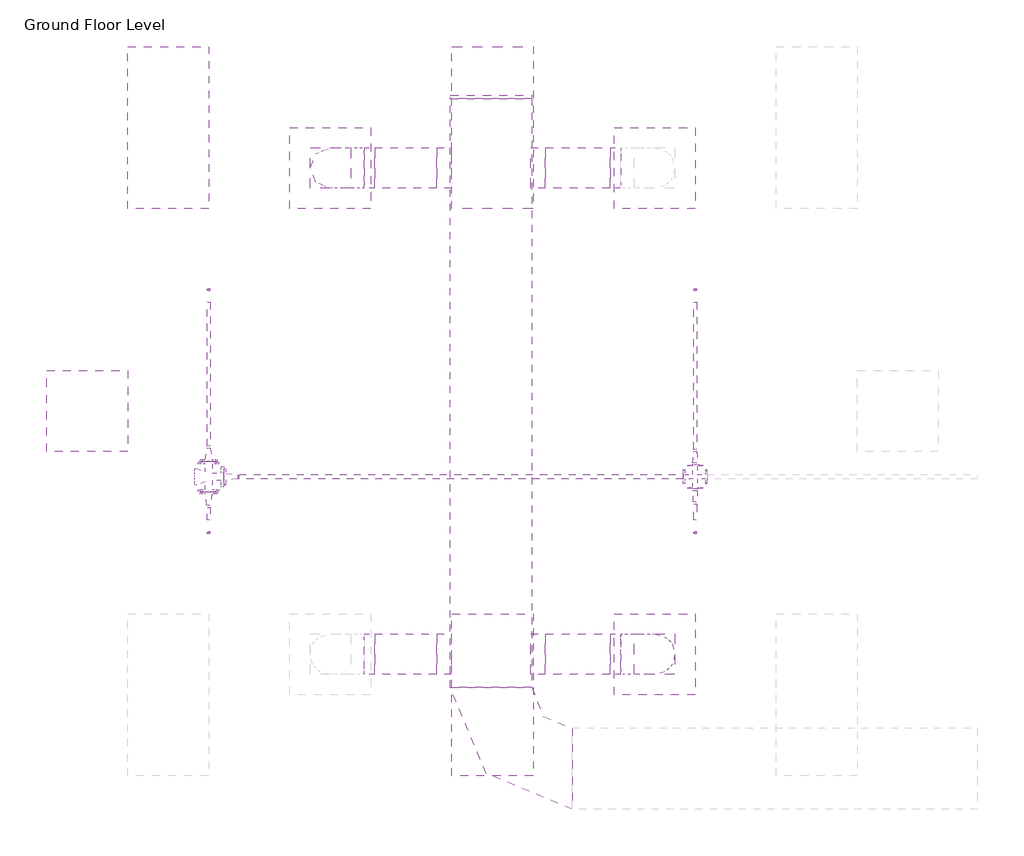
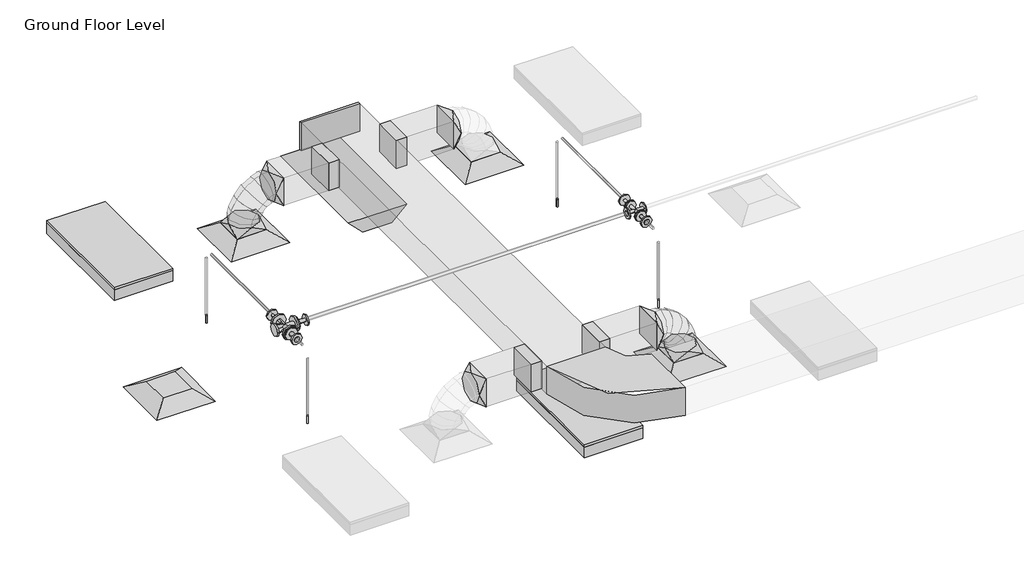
# One storey, part 10 of 66: 12 duct fittings, 9 pipe segments, 7 duct segments, 7 pipe fittings, 4 air terminals, 4 fire suppression terminals, 3 light fixtures.
"""IFC4 building model written with IfcOpenShell, lengths in millimetres."""

from ifc_helpers import new_model, si_unit, point, frame, frame_2d, origin, place, context, project, spatial, polyline, circle_curve, ellipse_curve, trimmed, segment, composite_curve, outline, extrude, transform, mapped, element, save
from ifc_brep_helpers import plane_surface, cylinder_surface, advanced_brep
from components import m_return_diffuser_600_x_600_face_300_x_300_connection_ff221211, m_rectangular_elbow_radius_1_w_c6ed0251, m_rectangular_endcap_standard_0f0ff112, m_rectangular_takeoff_standard_cb0ccb98, m_rectangular_takeoff_standard_2be5eba1, m_rectangular_to_round_transition_angle_45_degree_641efff0, m_sprinkler_dry_pendent_hosted_15_mm_dry_pendent_9bda8e11, m_emergency_recessed_lighting_fixture_600x1200_277_5b10b25d, m_troffer_light_parabolic_rectangular1_0600x1200mm_4_lamp_86473d4a, m_cross_flanged_cs_class_150_standard_16d34c5c, m_reducer_flanged_cs_class_150_standard_ccf252ad, m_reducer_flanged_cs_class_150_standard_8338f9e4, m_reducer_flanged_cs_class_150_standard_dc68ad9d, m_tee_round_base_flanged_cs_class_150_standard_ab36f383

model = new_model("IFC4")

# Units and contexts
model_context = context("Model", 3, world=origin())
ifc_project = project(units=[si_unit("LENGTHUNIT", "METRE", prefix="MILLI")], contexts=[model_context])

# Site, building, storey
site = spatial("IfcSite", under=ifc_project)
building = spatial("IfcBuilding", under=site)
storey = spatial("IfcBuildingStorey", under=building, Name="Ground Floor Level", Elevation=900.0)

# Air terminals
placement = place(None, origin())
m_return_diffuser_600_x_600_face_300_x_300_connection_shape = m_return_diffuser_600_x_600_face_300_x_300_connection_ff221211(model_context)
element("IfcAirTerminal", 1, ObjectType="M_Return Diffuser : 600 x 600 Face 300 x 300 Connection", at=placement, inside=storey, context=model_context, shape_type="MappedRepresentation", body=[
    mapped(m_return_diffuser_600_x_600_face_300_x_300_connection_shape, transform((-20937.2327605, -2464.7846466, 3650.0), x_axis=(1.0, 0.0, 0.0), y_axis=(0.0, 1.0, 0.0), z_axis=(0.0, 0.0, 1.0))),
])
element("IfcAirTerminal", 2, ObjectType="M_Supply Diffuser : 600 x 600 Face 300 x 300 Connection", at=placement, inside=storey, context=model_context, shape_type="MappedRepresentation", body=[
    mapped(m_return_diffuser_600_x_600_face_300_x_300_connection_shape, transform((-19137.2327605, -664.7846466, 3650.0), x_axis=(1.0, 0.0, 0.0), y_axis=(0.0, 1.0, 0.0), z_axis=(0.0, 0.0, 1.0))),
])
element("IfcAirTerminal", 3, ObjectType="M_Supply Diffuser : 600 x 600 Face 300 x 300 Connection", at=placement, inside=storey, context=model_context, shape_type="MappedRepresentation", body=[
    mapped(m_return_diffuser_600_x_600_face_300_x_300_connection_shape, transform((-16737.2327605, -664.7846466, 3650.0), x_axis=(1.0, 0.0, 0.0), y_axis=(0.0, 1.0, 0.0), z_axis=(0.0, 0.0, 1.0))),
])
element("IfcAirTerminal", 4, ObjectType="M_Supply Diffuser : 600 x 600 Face 300 x 300 Connection", at=placement, inside=storey, context=model_context, shape_type="MappedRepresentation", body=[
    mapped(m_return_diffuser_600_x_600_face_300_x_300_connection_shape, transform((-16737.2327605, -4264.7846466, 3650.0), x_axis=(1.0, 0.0, 0.0), y_axis=(0.0, 1.0, 0.0), z_axis=(0.0, 0.0, 1.0))),
])

# Duct fittings
m_rectangular_elbow_radius_1_w_shape = m_rectangular_elbow_radius_1_w_c6ed0251(model_context)
element("IfcDuctFitting", 5, ObjectType="M_Rectangular Elbow - Radius : 1 W", at=placement, inside=storey, context=model_context, shape_type="MappedRepresentation", body=[
    mapped(m_rectangular_elbow_radius_1_w_shape, transform((-17948.0331707, -5111.2846466, 4099.9999574), x_axis=(0.0, -0.999999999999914, -4.1482844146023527e-07), y_axis=(0.9999999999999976, 0.0, 7.102056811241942e-08), z_axis=(-7.102056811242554e-08, -4.1482844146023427e-07, 0.9999999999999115))),
])
m_rectangular_endcap_standard_shape = m_rectangular_endcap_standard_0f0ff112(model_context)
element("IfcDuctFitting", 6, ObjectType="M_Rectangular Endcap : Standard", at=placement, inside=storey, context=model_context, shape_type="MappedRepresentation", body=[
    mapped(m_rectangular_endcap_standard_shape, transform((-17948.0331707, -151.2845861, 4100.0020149), x_axis=(0.0, 0.999999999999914, 4.148284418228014e-07), y_axis=(-1.0, 0.0, 0.0), z_axis=(0.0, -4.148284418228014e-07, 0.999999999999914))),
])
m_rectangular_takeoff_standard_shape = m_rectangular_takeoff_standard_cb0ccb98(model_context)
element("IfcDuctFitting", 7, ObjectType="M_Rectangular Takeoff : Standard", at=placement, inside=storey, context=model_context, shape_type="MappedRepresentation", body=[
    mapped(m_rectangular_takeoff_standard_shape, transform((-18248.0331707, -4264.7846466, 4100.0003085), x_axis=(-1.0, 0.0, 0.0), y_axis=(0.0, 1.0, 0.0), z_axis=(0.0, 0.0, -1.0))),
])
element("IfcDuctFitting", 8, ObjectType="M_Rectangular Takeoff : Standard", at=placement, inside=storey, context=model_context, shape_type="MappedRepresentation", body=[
    mapped(m_rectangular_takeoff_standard_shape, transform((-18248.0331707, -664.7846466, 4100.0018019), x_axis=(-1.0, 0.0, 0.0), y_axis=(0.0, 1.0, 0.0), z_axis=(0.0, 0.0, -1.0))),
])
m_rectangular_takeoff_standard_2_shape = m_rectangular_takeoff_standard_2be5eba1(model_context)
element("IfcDuctFitting", 9, ObjectType="M_Rectangular Takeoff : Standard", at=placement, inside=storey, context=model_context, shape_type="MappedRepresentation", body=[
    mapped(m_rectangular_takeoff_standard_2_shape, transform((-17648.0331707, -4264.7846466, 4100.0003085), x_axis=(1.0, 0.0, 0.0), y_axis=(0.0, -1.0, 0.0), z_axis=(0.0, 0.0, -1.0))),
])
element("IfcDuctFitting", 10, ObjectType="M_Rectangular Takeoff : Standard", at=placement, inside=storey, context=model_context, shape_type="MappedRepresentation", body=[
    mapped(m_rectangular_takeoff_standard_2_shape, transform((-17648.0331707, -664.7846466, 4100.0018019), x_axis=(1.0, 0.0, 0.0), y_axis=(0.0, -1.0, 0.0), z_axis=(0.0, 0.0, -1.0))),
])
m_rectangular_to_round_transition_angle_45_degree_shape = m_rectangular_to_round_transition_angle_45_degree_641efff0(model_context)
element("IfcDuctFitting", 11, ObjectType="M_Rectangular to Round Transition - Angle : 45 Degree", at=placement, inside=storey, context=model_context, shape_type="MappedRepresentation", body=[
    mapped(m_rectangular_to_round_transition_angle_45_degree_shape, transform((-19137.2327605, -664.7846466, 3751.6), x_axis=(0.0, 0.0, 1.0), y_axis=(-1.0, 0.0, 0.0), z_axis=(0.0, -1.0, 0.0))),
])
element("IfcDuctFitting", 12, ObjectType="M_Rectangular to Round Transition - Angle : 45 Degree", at=placement, inside=storey, context=model_context, shape_type="MappedRepresentation", body=[
    mapped(m_rectangular_to_round_transition_angle_45_degree_shape, transform((-18809.8986312, -664.7846466, 4100.0018019), x_axis=(-1.0, 0.0, 0.0), y_axis=(0.0, -1.0, 0.0), z_axis=(0.0, 0.0, 1.0))),
])
element("IfcDuctFitting", 13, ObjectType="M_Rectangular to Round Transition - Angle : 45 Degree", at=placement, inside=storey, context=model_context, shape_type="MappedRepresentation", body=[
    mapped(m_rectangular_to_round_transition_angle_45_degree_shape, transform((-17064.5668899, -664.7846466, 4100.0018019), x_axis=(1.0, 0.0, 0.0), y_axis=(0.0, 1.0, 0.0), z_axis=(0.0, 0.0, 1.0))),
])
element("IfcDuctFitting", 14, ObjectType="M_Rectangular to Round Transition - Angle : 45 Degree", at=placement, inside=storey, context=model_context, shape_type="MappedRepresentation", body=[
    mapped(m_rectangular_to_round_transition_angle_45_degree_shape, transform((-18809.8971378, -4264.7846466, 4100.0003085), x_axis=(-1.0, 0.0, 0.0), y_axis=(0.0, -1.0, 0.0), z_axis=(0.0, 0.0, 1.0))),
])
element("IfcDuctFitting", 15, ObjectType="M_Rectangular to Round Transition - Angle : 45 Degree", at=placement, inside=storey, context=model_context, shape_type="MappedRepresentation", body=[
    mapped(m_rectangular_to_round_transition_angle_45_degree_shape, transform((-16737.2327605, -4264.7846466, 3751.6), x_axis=(0.0, 0.0, 1.0), y_axis=(-1.0, 0.0, 0.0), z_axis=(0.0, -1.0, 0.0))),
])
element("IfcDuctFitting", 16, ObjectType="M_Rectangular to Round Transition - Angle : 45 Degree", at=placement, inside=storey, context=model_context, shape_type="MappedRepresentation", body=[
    mapped(m_rectangular_to_round_transition_angle_45_degree_shape, transform((-17064.5683833, -4264.7846466, 4100.0003085), x_axis=(1.0, 0.0, 0.0), y_axis=(0.0, 1.0, 0.0), z_axis=(0.0, 0.0, 1.0))),
])

# Duct segments
element("IfcDuctSegment", 17, ObjectType="Flex - Round", at=placement, inside=storey, context=model_context, shape_type="AdvancedBrep", body=[
    advanced_brep(
    [(-18987.2327605, -664.7846466, 3826.6), (-19137.2327605, -814.7846466, 3826.6), (-19287.2327605, -664.7846466, 3826.6), (-19137.2327605, -514.7846466, 3826.6), (-18987.2327605, -664.7846466, 3832.5807508), (-19137.2327605, -814.7846466, 3854.3867302), (-19287.2327605, -664.7846466, 3876.1927096), (-19137.2327605, -514.7846466, 3854.3867302), (-18983.2862759, -664.7846466, 3845.8675264), (-19122.8956049, -814.7846466, 3902.6561626), (-19262.5049338, -664.7846466, 3959.4447987), (-19122.8956049, -514.7846466, 3902.6561626), (-18960.1038192, -664.7846466, 3889.9727121), (-19084.1279284, -814.7846466, 3976.4126063), (-19208.1520375, -664.7846466, 4062.8525006), (-19084.1279284, -514.7846466, 3976.4126063), (-18929.332672, -664.7846466, 3924.1202687), (-19027.2954168, -814.7846466, 4039.481149), (-19125.2581615, -664.7846466, 4154.8420293), (-19027.2954168, -514.7846466, 4039.481149), (-18889.6602728, -664.7846466, 3949.5871315), (-18958.7637558, -814.7846466, 4083.4736083), (-19027.8672388, -664.7846466, 4217.3600851), (-18958.7637558, -514.7846466, 4083.4736083), (-18888.6288567, -664.7846466, 3950.0018019), (-18917.6529238, -814.7846466, 4100.0018019), (-18946.676991, -664.7846466, 4250.0018019), (-18917.6529238, -514.7846466, 4100.0018019), (-18884.8986312, -664.7846466, 3950.0018019), (-18884.8986312, -514.7846466, 4100.0018019), (-18884.8986312, -664.7846466, 4250.0018019), (-18884.8986312, -814.7846466, 4100.0018019)],
    [
        (0, 1, circle_curve(frame((-19137.2327605, -664.7846466, 3826.6), z_axis=(0.0, 0.0, -1.0), x_axis=(1.0, 0.0, 0.0)), 150.0)),
        (1, 2, circle_curve(frame((-19137.2327605, -664.7846466, 3826.6), z_axis=(0.0, 0.0, -1.0), x_axis=(1.0, 0.0, 0.0)), 150.0)),
        (2, 3, circle_curve(frame((-19137.2327605, -664.7846466, 3826.6), z_axis=(0.0, 0.0, -1.0), x_axis=(1.0, 0.0, 0.0)), 150.0)),
        (3, 0, circle_curve(frame((-19137.2327605, -664.7846466, 3826.6), z_axis=(0.0, 0.0, -1.0), x_axis=(1.0, 0.0, 0.0)), 150.0)),
        (0, 4),
        (4, 5, ellipse_curve(frame((-19137.2327605, -664.7846466, 3854.3867302), z_axis=(-0.1438610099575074, 0.0, -0.9895979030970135), x_axis=(0.9895979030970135, 0.0, -0.14386100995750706)), 151.5767157, 150.0)),
        (5, 1),
        (5, 6, ellipse_curve(frame((-19137.2327605, -664.7846466, 3854.3867302), z_axis=(-0.1438610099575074, 0.0, -0.9895979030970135), x_axis=(0.9895979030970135, 0.0, -0.14386100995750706)), 151.5767157, 150.0)),
        (6, 2),
        (6, 7, ellipse_curve(frame((-19137.2327605, -664.7846466, 3854.3867302), z_axis=(-0.1438610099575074, 0.0, -0.9895979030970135), x_axis=(0.9895979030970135, 0.0, -0.14386100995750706)), 151.5767157, 150.0)),
        (7, 3),
        (7, 4, ellipse_curve(frame((-19137.2327605, -664.7846466, 3854.3867302), z_axis=(-0.1438610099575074, 0.0, -0.9895979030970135), x_axis=(0.9895979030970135, 0.0, -0.14386100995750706)), 151.5767157, 150.0)),
        (4, 8),
        (8, 9, ellipse_curve(frame((-19122.8956049, -664.7846466, 3902.6561626), z_axis=(-0.37678902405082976, 0.0, -0.9262991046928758), x_axis=(0.9262991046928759, 0.0, -0.37678902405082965)), 150.7173312, 150.0)),
        (9, 5),
        (9, 10, ellipse_curve(frame((-19122.8956049, -664.7846466, 3902.6561626), z_axis=(-0.37678902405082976, 0.0, -0.9262991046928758), x_axis=(0.9262991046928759, 0.0, -0.37678902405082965)), 150.7173312, 150.0)),
        (10, 6),
        (10, 11, ellipse_curve(frame((-19122.8956049, -664.7846466, 3902.6561626), z_axis=(-0.37678902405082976, 0.0, -0.9262991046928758), x_axis=(0.9262991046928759, 0.0, -0.37678902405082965)), 150.7173312, 150.0)),
        (11, 7),
        (11, 8, ellipse_curve(frame((-19122.8956049, -664.7846466, 3902.6561626), z_axis=(-0.37678902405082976, 0.0, -0.9262991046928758), x_axis=(0.9262991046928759, 0.0, -0.37678902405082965)), 150.7173312, 150.0)),
        (8, 12),
        (12, 13, ellipse_curve(frame((-19084.1279284, -664.7846466, 3976.4126063), z_axis=(-0.5717875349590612, 0.0, -0.8204017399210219), x_axis=(0.8204017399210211, 0.0, -0.5717875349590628)), 151.174849, 150.0)),
        (13, 9),
        (13, 14, ellipse_curve(frame((-19084.1279284, -664.7846466, 3976.4126063), z_axis=(-0.5717875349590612, 0.0, -0.8204017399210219), x_axis=(0.8204017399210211, 0.0, -0.5717875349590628)), 151.174849, 150.0)),
        (14, 10),
        (14, 15, ellipse_curve(frame((-19084.1279284, -664.7846466, 3976.4126063), z_axis=(-0.5717875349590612, 0.0, -0.8204017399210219), x_axis=(0.8204017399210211, 0.0, -0.5717875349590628)), 151.174849, 150.0)),
        (15, 11),
        (15, 12, ellipse_curve(frame((-19084.1279284, -664.7846466, 3976.4126063), z_axis=(-0.5717875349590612, 0.0, -0.8204017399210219), x_axis=(0.8204017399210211, 0.0, -0.5717875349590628)), 151.174849, 150.0)),
        (12, 16),
        (16, 17, ellipse_curve(frame((-19027.2954168, -664.7846466, 4039.481149), z_axis=(-0.7622457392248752, 0.0, -0.6472877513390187), x_axis=(0.6472877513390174, 0.0, -0.7622457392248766)), 151.3434242, 150.0)),
        (17, 13),
        (17, 18, ellipse_curve(frame((-19027.2954168, -664.7846466, 4039.481149), z_axis=(-0.7622457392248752, 0.0, -0.6472877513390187), x_axis=(0.6472877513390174, 0.0, -0.7622457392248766)), 151.3434242, 150.0)),
        (18, 14),
        (18, 19, ellipse_curve(frame((-19027.2954168, -664.7846466, 4039.481149), z_axis=(-0.7622457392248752, 0.0, -0.6472877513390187), x_axis=(0.6472877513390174, 0.0, -0.7622457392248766)), 151.3434242, 150.0)),
        (19, 15),
        (19, 16, ellipse_curve(frame((-19027.2954168, -664.7846466, 4039.481149), z_axis=(-0.7622457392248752, 0.0, -0.6472877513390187), x_axis=(0.6472877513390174, 0.0, -0.7622457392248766)), 151.3434242, 150.0)),
        (16, 20),
        (20, 21, ellipse_curve(frame((-18958.7637558, -664.7846466, 4083.4736083), z_axis=(-0.8886185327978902, 0.0, -0.45864703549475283), x_axis=(0.4586470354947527, 0.0, -0.8886185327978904)), 150.6681122, 150.0)),
        (21, 17),
        (21, 22, ellipse_curve(frame((-18958.7637558, -664.7846466, 4083.4736083), z_axis=(-0.8886185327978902, 0.0, -0.45864703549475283), x_axis=(0.4586470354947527, 0.0, -0.8886185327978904)), 150.6681122, 150.0)),
        (22, 18),
        (22, 23, ellipse_curve(frame((-18958.7637558, -664.7846466, 4083.4736083), z_axis=(-0.8886185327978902, 0.0, -0.45864703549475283), x_axis=(0.4586470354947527, 0.0, -0.8886185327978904)), 150.6681122, 150.0)),
        (23, 19),
        (23, 20, ellipse_curve(frame((-18958.7637558, -664.7846466, 4083.4736083), z_axis=(-0.8886185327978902, 0.0, -0.45864703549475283), x_axis=(0.4586470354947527, 0.0, -0.8886185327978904)), 150.6681122, 150.0)),
        (20, 24),
        (24, 25, ellipse_curve(frame((-18917.6529238, -664.7846466, 4100.0018019), z_axis=(-0.9817898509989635, 0.0, -0.18997023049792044), x_axis=(0.18997023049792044, 0.0, -0.9817898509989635)), 152.7821864, 150.0)),
        (25, 21),
        (25, 26, ellipse_curve(frame((-18917.6529238, -664.7846466, 4100.0018019), z_axis=(-0.9817898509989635, 0.0, -0.18997023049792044), x_axis=(0.18997023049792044, 0.0, -0.9817898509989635)), 152.7821864, 150.0)),
        (26, 22),
        (26, 27, ellipse_curve(frame((-18917.6529238, -664.7846466, 4100.0018019), z_axis=(-0.9817898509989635, 0.0, -0.18997023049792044), x_axis=(0.18997023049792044, 0.0, -0.9817898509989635)), 152.7821864, 150.0)),
        (27, 23),
        (27, 24, ellipse_curve(frame((-18917.6529238, -664.7846466, 4100.0018019), z_axis=(-0.9817898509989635, 0.0, -0.18997023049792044), x_axis=(0.18997023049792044, 0.0, -0.9817898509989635)), 152.7821864, 150.0)),
        (28, 29, circle_curve(frame((-18884.8986312, -664.7846466, 4100.0018019), z_axis=(1.0, 0.0, 0.0), x_axis=(0.0, 0.0, -1.0)), 150.0)),
        (29, 30, circle_curve(frame((-18884.8986312, -664.7846466, 4100.0018019), z_axis=(1.0, 0.0, 0.0), x_axis=(0.0, 0.0, -1.0)), 150.0)),
        (30, 31, circle_curve(frame((-18884.8986312, -664.7846466, 4100.0018019), z_axis=(1.0, 0.0, 0.0), x_axis=(0.0, 0.0, -1.0)), 150.0)),
        (31, 28, circle_curve(frame((-18884.8986312, -664.7846466, 4100.0018019), z_axis=(1.0, 0.0, 0.0), x_axis=(0.0, 0.0, -1.0)), 150.0)),
        (24, 28),
        (31, 25),
        (30, 26),
        (29, 27),
    ],
    [
        plane_surface(frame((-19137.2327605, -814.7846466, 3826.6), z_axis=(0.0, 0.0, -1.0), x_axis=(1.0, 0.0, 0.0))),
        cylinder_surface(frame((-19137.2327605, -664.7846466, 3826.6), z_axis=(0.0, 0.0, -1.0), x_axis=(1.0, 0.0, 0.0)), 150.0),
        cylinder_surface(frame((-19137.2327605, -664.7846466, 3854.3867302), z_axis=(-0.28472910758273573, 0.0, -0.958608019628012), x_axis=(0.958608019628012, 0.0, -0.28472910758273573)), 150.0),
        cylinder_surface(frame((-19122.8956049, -664.7846466, 3902.6561626), z_axis=(-0.46526232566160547, 0.0, -0.8851728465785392), x_axis=(0.8851728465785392, 0.0, -0.46526232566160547)), 150.0),
        cylinder_surface(frame((-19084.1279284, -664.7846466, 3976.4126063), z_axis=(-0.6694254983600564, 0.0, -0.7428791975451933), x_axis=(0.7428791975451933, 0.0, -0.6694254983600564)), 150.0),
        cylinder_surface(frame((-19027.2954168, -664.7846466, 4039.481149), z_axis=(-0.8415335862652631, 0.0, -0.5402047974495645), x_axis=(0.5402047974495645, 0.0, -0.8415335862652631)), 150.0),
        cylinder_surface(frame((-18958.7637558, -664.7846466, 4083.4736083), z_axis=(-0.9278226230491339, 0.0, -0.3730216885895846), x_axis=(0.3730216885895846, 0.0, -0.9278226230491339)), 150.0),
        plane_surface(frame((-18884.8986312, -664.7846466, 3950.0018019), z_axis=(1.0, 0.0, 0.0), x_axis=(0.0, 1.0, 0.0))),
        cylinder_surface(frame((-18917.6529238, -664.7846466, 4100.0018019), z_axis=(-1.0, 0.0, 0.0), x_axis=(0.0, 0.0, -1.0)), 150.0),
    ],
    [
        (0, [[1, 2, 3, 4]]),
        (1, [[-1, 5, 6, 7]]),
        (1, [[-2, -7, 8, 9]]),
        (1, [[-3, -9, 10, 11]]),
        (1, [[-4, -11, 12, -5]]),
        (2, [[-6, 13, 14, 15]]),
        (2, [[-8, -15, 16, 17]]),
        (2, [[-10, -17, 18, 19]]),
        (2, [[-12, -19, 20, -13]]),
        (3, [[-14, 21, 22, 23]]),
        (3, [[-16, -23, 24, 25]]),
        (3, [[-18, -25, 26, 27]]),
        (3, [[-20, -27, 28, -21]]),
        (4, [[-22, 29, 30, 31]]),
        (4, [[-24, -31, 32, 33]]),
        (4, [[-26, -33, 34, 35]]),
        (4, [[-28, -35, 36, -29]]),
        (5, [[-30, 37, 38, 39]]),
        (5, [[-32, -39, 40, 41]]),
        (5, [[-34, -41, 42, 43]]),
        (5, [[-36, -43, 44, -37]]),
        (6, [[-38, 45, 46, 47]]),
        (6, [[-40, -47, 48, 49]]),
        (6, [[-42, -49, 50, 51]]),
        (6, [[-44, -51, 52, -45]]),
        (7, [[53, 54, 55, 56]]),
        (8, [[-46, 57, -56, 58]]),
        (8, [[-48, -58, -55, 59]]),
        (8, [[-50, -59, -54, 60]]),
        (8, [[-52, -60, -53, -57]]),
    ],
),
])
element("IfcDuctSegment", 18, ObjectType="Flex - Round", at=placement, inside=storey, context=model_context, shape_type="AdvancedBrep", body=[
    advanced_brep(
    [(-16587.2327605, -4264.7846466, 3826.6), (-16737.2327605, -4414.7846466, 3826.6), (-16887.2327605, -4264.7846466, 3826.6), (-16737.2327605, -4114.7846466, 3826.6), (-16587.2327605, -4264.7846466, 3876.1935198), (-16737.2327605, -4414.7846466, 3854.3870846), (-16887.2327605, -4264.7846466, 3832.5806494), (-16737.2327605, -4114.7846466, 3854.3870846), (-16611.9610858, -4264.7846466, 3959.4454718), (-16751.5700742, -4414.7846466, 3902.6559964), (-16891.1790626, -4264.7846466, 3845.866521), (-16751.5700742, -4114.7846466, 3902.6559964), (-16666.3145875, -4264.7846466, 4062.8528022), (-16790.3381265, -4414.7846466, 3976.4120685), (-16914.3616655, -4264.7846466, 3889.9713348), (-16790.3381265, -4114.7846466, 3976.4120685), (-16749.20913, -4264.7846466, 4154.8417097), (-16847.1710842, -4414.7846466, 4039.4801732), (-16945.1330384, -4264.7846466, 3924.1186367), (-16847.1710842, -4114.7846466, 4039.4801732), (-16846.6005358, -4264.7846466, 4217.3592203), (-16915.7031142, -4414.7846466, 4083.4722675), (-16984.8056925, -4264.7846466, 3949.5853148), (-16915.7031142, -4114.7846466, 4083.4722675), (-16927.7909443, -4264.7846466, 4250.0003085), (-16956.8144396, -4414.7846466, 4100.0003085), (-16985.8379349, -4264.7846466, 3950.0003085), (-16956.8144396, -4114.7846466, 4100.0003085), (-16989.5683833, -4264.7846466, 4250.0003085), (-16989.5683833, -4114.7846466, 4100.0003085), (-16989.5683833, -4264.7846466, 3950.0003085), (-16989.5683833, -4414.7846466, 4100.0003085)],
    [
        (0, 1, circle_curve(frame((-16737.2327605, -4264.7846466, 3826.6), z_axis=(0.0, 0.0, -1.0), x_axis=(1.0, 0.0, 0.0)), 150.0)),
        (1, 2, circle_curve(frame((-16737.2327605, -4264.7846466, 3826.6), z_axis=(0.0, 0.0, -1.0), x_axis=(1.0, 0.0, 0.0)), 150.0)),
        (2, 3, circle_curve(frame((-16737.2327605, -4264.7846466, 3826.6), z_axis=(0.0, 0.0, -1.0), x_axis=(1.0, 0.0, 0.0)), 150.0)),
        (3, 0, circle_curve(frame((-16737.2327605, -4264.7846466, 3826.6), z_axis=(0.0, 0.0, -1.0), x_axis=(1.0, 0.0, 0.0)), 150.0)),
        (0, 4),
        (4, 5, ellipse_curve(frame((-16737.2327605, -4264.7846466, 3854.3870846), z_axis=(0.14386395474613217, 0.0, -0.9895974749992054), x_axis=(-0.9895974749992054, 0.0, -0.14386395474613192)), 151.5767813, 150.0)),
        (5, 1),
        (5, 6, ellipse_curve(frame((-16737.2327605, -4264.7846466, 3854.3870846), z_axis=(0.14386395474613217, 0.0, -0.9895974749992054), x_axis=(-0.9895974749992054, 0.0, -0.14386395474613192)), 151.5767813, 150.0)),
        (6, 2),
        (6, 7, ellipse_curve(frame((-16737.2327605, -4264.7846466, 3854.3870846), z_axis=(0.14386395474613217, 0.0, -0.9895974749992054), x_axis=(-0.9895974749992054, 0.0, -0.14386395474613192)), 151.5767813, 150.0)),
        (7, 3),
        (7, 4, ellipse_curve(frame((-16737.2327605, -4264.7846466, 3854.3870846), z_axis=(0.14386395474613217, 0.0, -0.9895974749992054), x_axis=(-0.9895974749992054, 0.0, -0.14386395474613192)), 151.5767813, 150.0)),
        (4, 8),
        (8, 9, ellipse_curve(frame((-16751.5700742, -4264.7846466, 3902.6559964), z_axis=(0.3767945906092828, 0.0, -0.9262968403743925), x_axis=(-0.926296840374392, 0.0, -0.37679459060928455)), 150.717332, 150.0)),
        (9, 5),
        (9, 10, ellipse_curve(frame((-16751.5700742, -4264.7846466, 3902.6559964), z_axis=(0.3767945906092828, 0.0, -0.9262968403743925), x_axis=(-0.926296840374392, 0.0, -0.37679459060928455)), 150.717332, 150.0)),
        (10, 6),
        (10, 11, ellipse_curve(frame((-16751.5700742, -4264.7846466, 3902.6559964), z_axis=(0.3767945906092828, 0.0, -0.9262968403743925), x_axis=(-0.926296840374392, 0.0, -0.37679459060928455)), 150.717332, 150.0)),
        (11, 7),
        (11, 8, ellipse_curve(frame((-16751.5700742, -4264.7846466, 3902.6559964), z_axis=(0.3767945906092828, 0.0, -0.9262968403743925), x_axis=(-0.926296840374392, 0.0, -0.37679459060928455)), 150.717332, 150.0)),
        (8, 12),
        (12, 13, ellipse_curve(frame((-16790.3381265, -4264.7846466, 3976.4120685), z_axis=(0.5717930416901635, 0.0, -0.8203979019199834), x_axis=(-0.820397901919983, 0.0, -0.5717930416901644)), 151.1748612, 150.0)),
        (13, 9),
        (13, 14, ellipse_curve(frame((-16790.3381265, -4264.7846466, 3976.4120685), z_axis=(0.5717930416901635, 0.0, -0.8203979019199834), x_axis=(-0.820397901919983, 0.0, -0.5717930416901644)), 151.1748612, 150.0)),
        (14, 10),
        (14, 15, ellipse_curve(frame((-16790.3381265, -4264.7846466, 3976.4120685), z_axis=(0.5717930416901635, 0.0, -0.8203979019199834), x_axis=(-0.820397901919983, 0.0, -0.5717930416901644)), 151.1748612, 150.0)),
        (15, 11),
        (15, 12, ellipse_curve(frame((-16790.3381265, -4264.7846466, 3976.4120685), z_axis=(0.5717930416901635, 0.0, -0.8203979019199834), x_axis=(-0.820397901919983, 0.0, -0.5717930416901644)), 151.1748612, 150.0)),
        (12, 16),
        (16, 17, ellipse_curve(frame((-16847.1710842, -4264.7846466, 4039.4801732), z_axis=(0.7622501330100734, 0.0, -0.6472825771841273), x_axis=(-0.6472825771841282, 0.0, -0.7622501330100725)), 151.3434127, 150.0)),
        (17, 13),
        (17, 18, ellipse_curve(frame((-16847.1710842, -4264.7846466, 4039.4801732), z_axis=(0.7622501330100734, 0.0, -0.6472825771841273), x_axis=(-0.6472825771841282, 0.0, -0.7622501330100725)), 151.3434127, 150.0)),
        (18, 14),
        (18, 19, ellipse_curve(frame((-16847.1710842, -4264.7846466, 4039.4801732), z_axis=(0.7622501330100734, 0.0, -0.6472825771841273), x_axis=(-0.6472825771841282, 0.0, -0.7622501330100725)), 151.3434127, 150.0)),
        (19, 15),
        (19, 16, ellipse_curve(frame((-16847.1710842, -4264.7846466, 4039.4801732), z_axis=(0.7622501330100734, 0.0, -0.6472825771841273), x_axis=(-0.6472825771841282, 0.0, -0.7622501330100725)), 151.3434127, 150.0)),
        (16, 20),
        (20, 21, ellipse_curve(frame((-16915.7031142, -4264.7846466, 4083.4722675), z_axis=(0.8886216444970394, 0.0, -0.45864100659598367), x_axis=(-0.45864100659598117, 0.0, -0.8886216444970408)), 150.6681202, 150.0)),
        (21, 17),
        (21, 22, ellipse_curve(frame((-16915.7031142, -4264.7846466, 4083.4722675), z_axis=(0.8886216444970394, 0.0, -0.45864100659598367), x_axis=(-0.45864100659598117, 0.0, -0.8886216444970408)), 150.6681202, 150.0)),
        (22, 18),
        (22, 23, ellipse_curve(frame((-16915.7031142, -4264.7846466, 4083.4722675), z_axis=(0.8886216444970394, 0.0, -0.45864100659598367), x_axis=(-0.45864100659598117, 0.0, -0.8886216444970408)), 150.6681202, 150.0)),
        (23, 19),
        (23, 20, ellipse_curve(frame((-16915.7031142, -4264.7846466, 4083.4722675), z_axis=(0.8886216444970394, 0.0, -0.45864100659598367), x_axis=(-0.45864100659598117, 0.0, -0.8886216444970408)), 150.6681202, 150.0)),
        (20, 24),
        (24, 25, ellipse_curve(frame((-16956.8144396, -4264.7846466, 4100.0003085), z_axis=(0.9817905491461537, 0.0, -0.18996662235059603), x_axis=(-0.18996662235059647, 0.0, -0.9817905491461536)), 152.7820777, 150.0)),
        (25, 21),
        (25, 26, ellipse_curve(frame((-16956.8144396, -4264.7846466, 4100.0003085), z_axis=(0.9817905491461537, 0.0, -0.18996662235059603), x_axis=(-0.18996662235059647, 0.0, -0.9817905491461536)), 152.7820777, 150.0)),
        (26, 22),
        (26, 27, ellipse_curve(frame((-16956.8144396, -4264.7846466, 4100.0003085), z_axis=(0.9817905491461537, 0.0, -0.18996662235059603), x_axis=(-0.18996662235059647, 0.0, -0.9817905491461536)), 152.7820777, 150.0)),
        (27, 23),
        (27, 24, ellipse_curve(frame((-16956.8144396, -4264.7846466, 4100.0003085), z_axis=(0.9817905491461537, 0.0, -0.18996662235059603), x_axis=(-0.18996662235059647, 0.0, -0.9817905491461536)), 152.7820777, 150.0)),
        (28, 29, circle_curve(frame((-16989.5683833, -4264.7846466, 4100.0003085), z_axis=(-1.0, 0.0, 0.0), x_axis=(0.0, 0.0, 1.0)), 150.0)),
        (29, 30, circle_curve(frame((-16989.5683833, -4264.7846466, 4100.0003085), z_axis=(-1.0, 0.0, 0.0), x_axis=(0.0, 0.0, 1.0)), 150.0)),
        (30, 31, circle_curve(frame((-16989.5683833, -4264.7846466, 4100.0003085), z_axis=(-1.0, 0.0, 0.0), x_axis=(0.0, 0.0, 1.0)), 150.0)),
        (31, 28, circle_curve(frame((-16989.5683833, -4264.7846466, 4100.0003085), z_axis=(-1.0, 0.0, 0.0), x_axis=(0.0, 0.0, 1.0)), 150.0)),
        (24, 28),
        (31, 25),
        (30, 26),
        (29, 27),
    ],
    [
        plane_surface(frame((-16737.2327605, -4414.7846466, 3826.6), z_axis=(0.0, 0.0, -1.0), x_axis=(1.0, 0.0, 0.0))),
        cylinder_surface(frame((-16737.2327605, -4264.7846466, 3826.6), z_axis=(0.0, 0.0, -1.0), x_axis=(1.0, 0.0, 0.0)), 150.0),
        cylinder_surface(frame((-16737.2327605, -4264.7846466, 3854.3870846), z_axis=(0.2847348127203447, 0.0, -0.9586063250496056), x_axis=(0.9586063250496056, 0.0, 0.2847348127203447)), 150.0),
        cylinder_surface(frame((-16751.5700742, -4264.7846466, 3902.6559964), z_axis=(0.4652676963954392, 0.0, -0.8851700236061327), x_axis=(0.8851700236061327, 0.0, 0.4652676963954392)), 150.0),
        cylinder_surface(frame((-16790.3381265, -4264.7846466, 3976.4120685), z_axis=(0.6694309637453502, 0.0, -0.7428742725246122), x_axis=(0.7428742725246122, 0.0, 0.6694309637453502)), 150.0),
        cylinder_surface(frame((-16847.1710842, -4264.7846466, 4039.4801732), z_axis=(0.841536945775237, 0.0, -0.5401995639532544), x_axis=(0.5401995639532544, 0.0, 0.841536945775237)), 150.0),
        cylinder_surface(frame((-16915.7031142, -4264.7846466, 4083.4722675), z_axis=(0.9278253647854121, 0.0, -0.37301486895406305), x_axis=(0.37301486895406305, 0.0, 0.9278253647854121)), 150.0),
        plane_surface(frame((-16989.5683833, -4264.7846466, 3950.0003085), z_axis=(-1.0, 0.0, 0.0), x_axis=(0.0, -1.0, 0.0))),
        cylinder_surface(frame((-16956.8144396, -4264.7846466, 4100.0003085), z_axis=(1.0, 0.0, 0.0), x_axis=(0.0, 0.0, 1.0)), 150.0),
    ],
    [
        (0, [[1, 2, 3, 4]]),
        (1, [[-1, 5, 6, 7]]),
        (1, [[-2, -7, 8, 9]]),
        (1, [[-3, -9, 10, 11]]),
        (1, [[-4, -11, 12, -5]]),
        (2, [[-6, 13, 14, 15]]),
        (2, [[-8, -15, 16, 17]]),
        (2, [[-10, -17, 18, 19]]),
        (2, [[-12, -19, 20, -13]]),
        (3, [[-14, 21, 22, 23]]),
        (3, [[-16, -23, 24, 25]]),
        (3, [[-18, -25, 26, 27]]),
        (3, [[-20, -27, 28, -21]]),
        (4, [[-22, 29, 30, 31]]),
        (4, [[-24, -31, 32, 33]]),
        (4, [[-26, -33, 34, 35]]),
        (4, [[-28, -35, 36, -29]]),
        (5, [[-30, 37, 38, 39]]),
        (5, [[-32, -39, 40, 41]]),
        (5, [[-34, -41, 42, 43]]),
        (5, [[-36, -43, 44, -37]]),
        (6, [[-38, 45, 46, 47]]),
        (6, [[-40, -47, 48, 49]]),
        (6, [[-42, -49, 50, 51]]),
        (6, [[-44, -51, 52, -45]]),
        (7, [[53, 54, 55, 56]]),
        (8, [[-46, 57, -56, 58]]),
        (8, [[-48, -58, -55, 59]]),
        (8, [[-50, -59, -54, 60]]),
        (8, [[-52, -60, -53, -57]]),
    ],
),
])
element("IfcDuctSegment", 19, ObjectType="Radius Elbows / Taps", at=placement, inside=storey, context=model_context, shape_type="SweptSolid", body=[
    extrude(outline(polyline([(-17648.0331707, -4511.2846466), (-18248.0331707, -4511.2846466), (-18248.0331707, -151.2845861), (-17648.0331707, -151.2845861), (-17648.0331707, -4511.2846466)])), frame((0.0, 0.0, 3950.0002063), z_axis=(0.0, 0.0, 1.0), x_axis=(1.0, 0.0, 0.0)), (0.0, 0.0, 1.0), 300.0),
])
element("IfcDuctSegment", 20, ObjectType="Radius Elbows / Taps", at=placement, inside=storey, context=model_context, shape_type="SweptSolid", body=[
    extrude(outline(polyline([(-17546.4331707, -4414.7846466), (-17546.4331707, -4114.7846466), (-17064.5683833, -4114.7846466), (-17064.5683833, -4414.7846466), (-17546.4331707, -4414.7846466)])), frame((0.0, 0.0, 3950.0003085), z_axis=(0.0, 0.0, 1.0), x_axis=(1.0, 0.0, 0.0)), (0.0, 0.0, 1.0), 300.0),
])
element("IfcDuctSegment", 21, ObjectType="Radius Elbows / Taps", at=placement, inside=storey, context=model_context, shape_type="SweptSolid", body=[
    extrude(outline(polyline([(-18349.6331707, -4114.7846466), (-18349.6331707, -4414.7846466), (-18809.8971378, -4414.7846466), (-18809.8971378, -4114.7846466), (-18349.6331707, -4114.7846466)])), frame((0.0, 0.0, 3950.0003085), z_axis=(0.0, 0.0, 1.0), x_axis=(1.0, 0.0, 0.0)), (0.0, 0.0, 1.0), 300.0),
])
element("IfcDuctSegment", 22, ObjectType="Radius Elbows / Taps", at=placement, inside=storey, context=model_context, shape_type="SweptSolid", body=[
    extrude(outline(polyline([(-17546.4331707, -814.7846466), (-17546.4331707, -514.7846466), (-17064.5668899, -514.7846466), (-17064.5668899, -814.7846466), (-17546.4331707, -814.7846466)])), frame((0.0, 0.0, 3950.0018019), z_axis=(0.0, 0.0, 1.0), x_axis=(1.0, 0.0, 0.0)), (0.0, 0.0, 1.0), 300.0),
])
element("IfcDuctSegment", 23, ObjectType="Radius Elbows / Taps", at=placement, inside=storey, context=model_context, shape_type="SweptSolid", body=[
    extrude(outline(polyline([(-18349.6331707, -514.7846466), (-18349.6331707, -814.7846466), (-18809.8986312, -814.7846466), (-18809.8986312, -514.7846466), (-18349.6331707, -514.7846466)])), frame((0.0, 0.0, 3950.0018019), z_axis=(0.0, 0.0, 1.0), x_axis=(1.0, 0.0, 0.0)), (0.0, 0.0, 1.0), 300.0),
])

# Fire suppression terminals
m_sprinkler_dry_pendent_hosted_15_mm_dry_pendent_shape = m_sprinkler_dry_pendent_hosted_15_mm_dry_pendent_9bda8e11(model_context)
element("IfcFireSuppressionTerminal", 24, ObjectType="M_Sprinkler - Dry - Pendent - Hosted : 15 mm Dry Pendent", at=placement, inside=storey, context=model_context, shape_type="MappedRepresentation", body=[
    mapped(m_sprinkler_dry_pendent_hosted_15_mm_dry_pendent_shape, transform((-20037.2327605, -1564.7846466, 3650.0), x_axis=(1.0, 0.0, 0.0), y_axis=(0.0, -1.0, 0.0), z_axis=(0.0, 0.0, -1.0))),
])
element("IfcFireSuppressionTerminal", 25, ObjectType="M_Sprinkler - Dry - Pendent - Hosted : 15 mm Dry Pendent", at=placement, inside=storey, context=model_context, shape_type="MappedRepresentation", body=[
    mapped(m_sprinkler_dry_pendent_hosted_15_mm_dry_pendent_shape, transform((-16437.2327605, -1564.7846466, 3650.0), x_axis=(1.0, 0.0, 0.0), y_axis=(0.0, -1.0, 0.0), z_axis=(0.0, 0.0, -1.0))),
])
element("IfcFireSuppressionTerminal", 26, ObjectType="M_Sprinkler - Dry - Pendent - Hosted : 15 mm Dry Pendent", at=placement, inside=storey, context=model_context, shape_type="MappedRepresentation", body=[
    mapped(m_sprinkler_dry_pendent_hosted_15_mm_dry_pendent_shape, transform((-16437.2327605, -3364.7846466, 3650.0), x_axis=(1.0, 0.0, 0.0), y_axis=(0.0, -1.0, 0.0), z_axis=(0.0, 0.0, -1.0))),
])
element("IfcFireSuppressionTerminal", 27, ObjectType="M_Sprinkler - Dry - Pendent - Hosted : 15 mm Dry Pendent", at=placement, inside=storey, context=model_context, shape_type="MappedRepresentation", body=[
    mapped(m_sprinkler_dry_pendent_hosted_15_mm_dry_pendent_shape, transform((-20037.2327605, -3364.7846466, 3650.0), x_axis=(1.0, 0.0, 0.0), y_axis=(0.0, -1.0, 0.0), z_axis=(0.0, 0.0, -1.0))),
])

# Light fixtures
m_emergency_recessed_lighting_fixture_600x1200_277_shape = m_emergency_recessed_lighting_fixture_600x1200_277_5b10b25d(model_context)
element("IfcLightFixture", 28, ObjectType="M_Emergency Recessed Lighting Fixture : 600x1200 - 277", at=placement, inside=storey, context=model_context, shape_type="MappedRepresentation", body=[
    mapped(m_emergency_recessed_lighting_fixture_600x1200_277_shape, transform((-18237.2327605, -964.7846466, 3650.0), x_axis=(0.0, 1.0, 0.0), y_axis=(-1.0, 0.0, 0.0), z_axis=(0.0, 0.0, 1.0))),
])
m_troffer_light_parabolic_rectangular1_0600x1200mm_4_lamp_shape = m_troffer_light_parabolic_rectangular1_0600x1200mm_4_lamp_86473d4a(model_context)
element("IfcLightFixture", 29, ObjectType="M_Troffer Light - Parabolic Rectangular1 : 0600x1200mm(4 Lamp) - 277V 2", at=placement, inside=storey, context=model_context, shape_type="MappedRepresentation", body=[
    mapped(m_troffer_light_parabolic_rectangular1_0600x1200mm_4_lamp_shape, transform((-20396.6986926, -346.081145, 3650.0), x_axis=(0.0, 1.0, 0.0), y_axis=(-1.0, 0.0, 0.0), z_axis=(0.0, 0.0, 1.0))),
])
element("IfcLightFixture", 30, ObjectType="M_Troffer Light - Parabolic Rectangular1 : 0600x1200mm(4 Lamp) - 277V 2", at=placement, inside=storey, context=model_context, shape_type="MappedRepresentation", body=[
    mapped(m_troffer_light_parabolic_rectangular1_0600x1200mm_4_lamp_shape, transform((-17996.6986926, -4546.081145, 3650.0), x_axis=(0.0, 1.0, 0.0), y_axis=(-1.0, 0.0, 0.0), z_axis=(0.0, 0.0, 1.0))),
])

# Pipe fittings
m_cross_flanged_cs_class_150_standard_shape = m_cross_flanged_cs_class_150_standard_16d34c5c(model_context)
element("IfcPipeFitting", 31, ObjectType="M_Cross - Flanged - CS - Class 150 : Standard", at=placement, inside=storey, context=model_context, shape_type="MappedRepresentation", body=[
    mapped(m_cross_flanged_cs_class_150_standard_shape, transform((-16437.2327605, -2950.3491993, 4360.0), x_axis=(1.0, 0.0, 0.0), y_axis=(0.0, -1.0, 0.0), z_axis=(0.0, 0.0, -1.0))),
])
m_reducer_flanged_cs_class_150_standard_shape = m_reducer_flanged_cs_class_150_standard_ccf252ad(model_context)
element("IfcPipeFitting", 32, ObjectType="M_Reducer - Flanged - CS - Class 150 : Standard", at=placement, inside=storey, context=model_context, shape_type="MappedRepresentation", body=[
    mapped(m_reducer_flanged_cs_class_150_standard_shape, transform((-16437.2327605, -2861.3491993, 4360.0), x_axis=(0.0, 1.0, 0.0), y_axis=(-1.0, 0.0, 0.0), z_axis=(0.0, 0.0, 1.0))),
])
element("IfcPipeFitting", 33, ObjectType="M_Reducer - Flanged - CS - Class 150 : Standard", at=placement, inside=storey, context=model_context, shape_type="MappedRepresentation", body=[
    mapped(m_reducer_flanged_cs_class_150_standard_shape, transform((-16437.2327605, -3039.3491993, 4360.0), x_axis=(0.0, -1.0, 0.0), y_axis=(1.0, 0.0, 0.0), z_axis=(0.0, 0.0, 1.0))),
])
m_reducer_flanged_cs_class_150_standard_2_shape = m_reducer_flanged_cs_class_150_standard_8338f9e4(model_context)
element("IfcPipeFitting", 34, ObjectType="M_Reducer - Flanged - CS - Class 150 : Standard", at=placement, inside=storey, context=model_context, shape_type="MappedRepresentation", body=[
    mapped(m_reducer_flanged_cs_class_150_standard_2_shape, transform((-19924.9741668, -2950.3491993, 4360.0), x_axis=(1.0, 0.0, 0.0), y_axis=(0.0, 1.0, 0.0), z_axis=(0.0, 0.0, 1.0))),
])
m_reducer_flanged_cs_class_150_standard_3_shape = m_reducer_flanged_cs_class_150_standard_dc68ad9d(model_context)
element("IfcPipeFitting", 35, ObjectType="M_Reducer - Flanged - CS - Class 150 : Standard", at=placement, inside=storey, context=model_context, shape_type="MappedRepresentation", body=[
    mapped(m_reducer_flanged_cs_class_150_standard_3_shape, transform((-20037.2327605, -2838.0906055, 4360.0), x_axis=(0.0, 1.0, 0.0), y_axis=(-1.0, 0.0, 0.0), z_axis=(0.0, 0.0, 1.0))),
])
element("IfcPipeFitting", 36, ObjectType="M_Reducer - Flanged - CS - Class 150 : Standard", at=placement, inside=storey, context=model_context, shape_type="MappedRepresentation", body=[
    mapped(m_reducer_flanged_cs_class_150_standard_3_shape, transform((-20037.2327605, -3062.607793, 4360.0), x_axis=(0.0, -1.0, 0.0), y_axis=(1.0, 0.0, 0.0), z_axis=(0.0, 0.0, 1.0))),
])
m_tee_round_base_flanged_cs_class_150_standard_shape = m_tee_round_base_flanged_cs_class_150_standard_ab36f383(model_context)
element("IfcPipeFitting", 37, ObjectType="M_Tee Round Base - Flanged - CS - Class 150 : Standard", at=placement, inside=storey, context=model_context, shape_type="MappedRepresentation", body=[
    mapped(m_tee_round_base_flanged_cs_class_150_standard_shape, transform((-20037.2327605, -2950.3491993, 4360.0), x_axis=(0.0, -1.0, 0.0), y_axis=(-1.0, 0.0, 0.0), z_axis=(0.0, 0.0, -1.0))),
])

# Pipe segments
element("IfcPipeSegment", 38, ObjectType="Steel flanged", at=placement, inside=storey, context=model_context, shape_type="SweptSolid", body=[
    extrude(outline(composite_curve([segment(trimmed(circle_curve(frame_2d((-16437.2327605, -1564.7846466)), 10.668), [point((-16447.9007605, -1564.7846466))], [point((-16437.2327605, -1554.1166466))], False, "CARTESIAN"), True, "CONTINUOUS"), segment(trimmed(circle_curve(frame_2d((-16437.2327605, -1564.7846466)), 10.668), [point((-16437.2327605, -1554.1166466))], [point((-16426.5647605, -1564.7846466))], False, "CARTESIAN"), True, "CONTINUOUS"), segment(trimmed(circle_curve(frame_2d((-16437.2327605, -1564.7846466)), 10.668), [point((-16426.5647605, -1564.7846466))], [point((-16437.2327605, -1575.4526466))], False, "CARTESIAN"), True, "CONTINUOUS"), segment(trimmed(circle_curve(frame_2d((-16437.2327605, -1564.7846466)), 10.668), [point((-16437.2327605, -1575.4526466))], [point((-16447.9007605, -1564.7846466))], False, "CARTESIAN"), True, "CONTINUOUS")], self_intersect=False)), frame((0.0, 0.0, 3650.0), z_axis=(0.0, 0.0, 1.0), x_axis=(1.0, 0.0, 0.0)), (0.0, 0.0, 1.0), 616.9914062),
])
element("IfcPipeSegment", 39, ObjectType="Steel flanged", at=placement, inside=storey, context=model_context, shape_type="SweptSolid", body=[
    extrude(outline(composite_curve([segment(trimmed(circle_curve(frame_2d((4360.0, -16437.2327605)), 10.668), [point((4360.0, -16447.9007605))], [point((4349.332, -16437.2327605))], False, "CARTESIAN"), True, "CONTINUOUS"), segment(trimmed(circle_curve(frame_2d((4360.0, -16437.2327605)), 10.668), [point((4349.332, -16437.2327605))], [point((4360.0, -16426.5647605))], False, "CARTESIAN"), True, "CONTINUOUS"), segment(trimmed(circle_curve(frame_2d((4360.0, -16437.2327605)), 10.668), [point((4360.0, -16426.5647605))], [point((4370.668, -16437.2327605))], False, "CARTESIAN"), True, "CONTINUOUS"), segment(trimmed(circle_curve(frame_2d((4360.0, -16437.2327605)), 10.668), [point((4370.668, -16437.2327605))], [point((4360.0, -16447.9007605))], False, "CARTESIAN"), True, "CONTINUOUS")], self_intersect=False)), frame((0.0, -2747.3491993, 0.0), z_axis=(0.0, 1.0, 0.0), x_axis=(0.0, 0.0, 1.0)), (0.0, 0.0, 1.0), 1089.5559589),
])
element("IfcPipeSegment", 40, ObjectType="Steel flanged", at=placement, inside=storey, context=model_context, shape_type="SweptSolid", body=[
    extrude(outline(composite_curve([segment(trimmed(circle_curve(frame_2d((-2950.3491993, 4360.0)), 16.7005), [point((-2933.6486993, 4360.0))], [point((-2950.3491993, 4343.2995))], False, "CARTESIAN"), True, "CONTINUOUS"), segment(trimmed(circle_curve(frame_2d((-2950.3491993, 4360.0)), 16.7005), [point((-2950.3491993, 4343.2995))], [point((-2967.0496993, 4360.0))], False, "CARTESIAN"), True, "CONTINUOUS"), segment(trimmed(circle_curve(frame_2d((-2950.3491993, 4360.0)), 16.7005), [point((-2967.0496993, 4360.0))], [point((-2950.3491993, 4376.7005))], False, "CARTESIAN"), True, "CONTINUOUS"), segment(trimmed(circle_curve(frame_2d((-2950.3491993, 4360.0)), 16.7005), [point((-2950.3491993, 4376.7005))], [point((-2933.6486993, 4360.0))], False, "CARTESIAN"), True, "CONTINUOUS")], self_intersect=False)), frame((-19810.9741668, 0.0, 0.0), z_axis=(1.0, 0.0, 0.0), x_axis=(0.0, 1.0, 0.0)), (0.0, 0.0, 1.0), 3284.7414063),
])
element("IfcPipeSegment", 41, ObjectType="Steel flanged", at=placement, inside=storey, context=model_context, shape_type="SweptSolid", body=[
    extrude(outline(composite_curve([segment(trimmed(circle_curve(frame_2d((-20037.2327605, -1564.7846466)), 10.668), [point((-20047.9007605, -1564.7846466))], [point((-20037.2327605, -1554.1166466))], False, "CARTESIAN"), True, "CONTINUOUS"), segment(trimmed(circle_curve(frame_2d((-20037.2327605, -1564.7846466)), 10.668), [point((-20037.2327605, -1554.1166466))], [point((-20026.5647605, -1564.7846466))], False, "CARTESIAN"), True, "CONTINUOUS"), segment(trimmed(circle_curve(frame_2d((-20037.2327605, -1564.7846466)), 10.668), [point((-20026.5647605, -1564.7846466))], [point((-20037.2327605, -1575.4526466))], False, "CARTESIAN"), True, "CONTINUOUS"), segment(trimmed(circle_curve(frame_2d((-20037.2327605, -1564.7846466)), 10.668), [point((-20037.2327605, -1575.4526466))], [point((-20047.9007605, -1564.7846466))], False, "CARTESIAN"), True, "CONTINUOUS")], self_intersect=False)), frame((0.0, 0.0, 3650.0), z_axis=(0.0, 0.0, 1.0), x_axis=(1.0, 0.0, 0.0)), (0.0, 0.0, 1.0), 616.9914063),
])
element("IfcPipeSegment", 42, ObjectType="Steel flanged", at=placement, inside=storey, context=model_context, shape_type="SweptSolid", body=[
    extrude(outline(composite_curve([segment(trimmed(circle_curve(frame_2d((4360.0, -20037.2327605)), 10.668), [point((4360.0, -20047.9007605))], [point((4349.332, -20037.2327605))], False, "CARTESIAN"), True, "CONTINUOUS"), segment(trimmed(circle_curve(frame_2d((4360.0, -20037.2327605)), 10.668), [point((4349.332, -20037.2327605))], [point((4360.0, -20026.5647605))], False, "CARTESIAN"), True, "CONTINUOUS"), segment(trimmed(circle_curve(frame_2d((4360.0, -20037.2327605)), 10.668), [point((4360.0, -20026.5647605))], [point((4370.668, -20037.2327605))], False, "CARTESIAN"), True, "CONTINUOUS"), segment(trimmed(circle_curve(frame_2d((4360.0, -20037.2327605)), 10.668), [point((4370.668, -20037.2327605))], [point((4360.0, -20047.9007605))], False, "CARTESIAN"), True, "CONTINUOUS")], self_intersect=False)), frame((0.0, -2724.0906055, 0.0), z_axis=(0.0, 1.0, 0.0), x_axis=(0.0, 0.0, 1.0)), (0.0, 0.0, 1.0), 1066.2973652),
])
element("IfcPipeSegment", 43, ObjectType="Steel flanged", at=placement, inside=storey, context=model_context, shape_type="SweptSolid", body=[
    extrude(outline(composite_curve([segment(trimmed(circle_curve(frame_2d((4360.0, -16437.2327605)), 10.668), [point((4360.0, -16426.5647605))], [point((4370.668, -16437.2327605))], False, "CARTESIAN"), True, "CONTINUOUS"), segment(trimmed(circle_curve(frame_2d((4360.0, -16437.2327605)), 10.668), [point((4370.668, -16437.2327605))], [point((4360.0, -16447.9007605))], False, "CARTESIAN"), True, "CONTINUOUS"), segment(trimmed(circle_curve(frame_2d((4360.0, -16437.2327605)), 10.668), [point((4360.0, -16447.9007605))], [point((4349.332, -16437.2327605))], False, "CARTESIAN"), True, "CONTINUOUS"), segment(trimmed(circle_curve(frame_2d((4360.0, -16437.2327605)), 10.668), [point((4349.332, -16437.2327605))], [point((4360.0, -16426.5647605))], False, "CARTESIAN"), True, "CONTINUOUS")], self_intersect=False)), frame((0.0, -3271.7760528, 0.0), z_axis=(0.0, 1.0, 0.0), x_axis=(0.0, 0.0, 1.0)), (0.0, 0.0, 1.0), 118.4268536),
])
element("IfcPipeSegment", 44, ObjectType="Steel flanged", at=placement, inside=storey, context=model_context, shape_type="SweptSolid", body=[
    extrude(outline(composite_curve([segment(trimmed(circle_curve(frame_2d((-16437.2327605, -3364.7846466)), 10.668), [point((-16447.9007605, -3364.7846466))], [point((-16437.2327605, -3354.1166466))], False, "CARTESIAN"), True, "CONTINUOUS"), segment(trimmed(circle_curve(frame_2d((-16437.2327605, -3364.7846466)), 10.668), [point((-16437.2327605, -3354.1166466))], [point((-16426.5647605, -3364.7846466))], False, "CARTESIAN"), True, "CONTINUOUS"), segment(trimmed(circle_curve(frame_2d((-16437.2327605, -3364.7846466)), 10.668), [point((-16426.5647605, -3364.7846466))], [point((-16437.2327605, -3375.4526466))], False, "CARTESIAN"), True, "CONTINUOUS"), segment(trimmed(circle_curve(frame_2d((-16437.2327605, -3364.7846466)), 10.668), [point((-16437.2327605, -3375.4526466))], [point((-16447.9007605, -3364.7846466))], False, "CARTESIAN"), True, "CONTINUOUS")], self_intersect=False)), frame((0.0, 0.0, 3650.0), z_axis=(0.0, 0.0, 1.0), x_axis=(1.0, 0.0, 0.0)), (0.0, 0.0, 1.0), 616.9914063),
])
element("IfcPipeSegment", 45, ObjectType="Steel flanged", at=placement, inside=storey, context=model_context, shape_type="SweptSolid", body=[
    extrude(outline(composite_curve([segment(trimmed(circle_curve(frame_2d((4360.0, -20037.2327605)), 10.668), [point((4360.0, -20026.5647605))], [point((4370.668, -20037.2327605))], False, "CARTESIAN"), True, "CONTINUOUS"), segment(trimmed(circle_curve(frame_2d((4360.0, -20037.2327605)), 10.668), [point((4370.668, -20037.2327605))], [point((4360.0, -20047.9007605))], False, "CARTESIAN"), True, "CONTINUOUS"), segment(trimmed(circle_curve(frame_2d((4360.0, -20037.2327605)), 10.668), [point((4360.0, -20047.9007605))], [point((4349.332, -20037.2327605))], False, "CARTESIAN"), True, "CONTINUOUS"), segment(trimmed(circle_curve(frame_2d((4360.0, -20037.2327605)), 10.668), [point((4349.332, -20037.2327605))], [point((4360.0, -20026.5647605))], False, "CARTESIAN"), True, "CONTINUOUS")], self_intersect=False)), frame((0.0, -3271.7760528, 0.0), z_axis=(0.0, 1.0, 0.0), x_axis=(0.0, 0.0, 1.0)), (0.0, 0.0, 1.0), 95.1682598),
])
element("IfcPipeSegment", 46, ObjectType="Steel flanged", at=placement, inside=storey, context=model_context, shape_type="SweptSolid", body=[
    extrude(outline(composite_curve([segment(trimmed(circle_curve(frame_2d((-20037.2327605, -3364.7846466)), 10.668), [point((-20047.9007605, -3364.7846466))], [point((-20037.2327605, -3354.1166466))], False, "CARTESIAN"), True, "CONTINUOUS"), segment(trimmed(circle_curve(frame_2d((-20037.2327605, -3364.7846466)), 10.668), [point((-20037.2327605, -3354.1166466))], [point((-20026.5647605, -3364.7846466))], False, "CARTESIAN"), True, "CONTINUOUS"), segment(trimmed(circle_curve(frame_2d((-20037.2327605, -3364.7846466)), 10.668), [point((-20026.5647605, -3364.7846466))], [point((-20037.2327605, -3375.4526466))], False, "CARTESIAN"), True, "CONTINUOUS"), segment(trimmed(circle_curve(frame_2d((-20037.2327605, -3364.7846466)), 10.668), [point((-20037.2327605, -3375.4526466))], [point((-20047.9007605, -3364.7846466))], False, "CARTESIAN"), True, "CONTINUOUS")], self_intersect=False)), frame((0.0, 0.0, 3650.0), z_axis=(0.0, 0.0, 1.0), x_axis=(1.0, 0.0, 0.0)), (0.0, 0.0, 1.0), 616.9914063),
])

save(model, "model.ifc")
